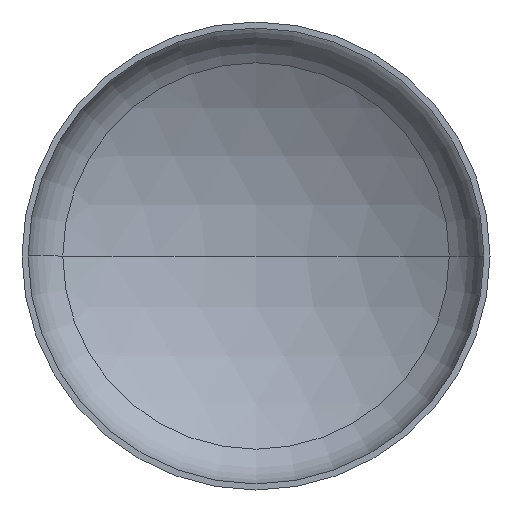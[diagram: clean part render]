
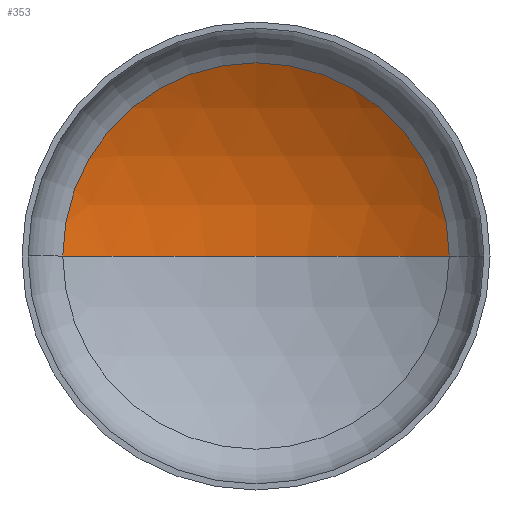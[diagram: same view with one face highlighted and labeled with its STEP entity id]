
A CAD part, front view. The second image highlights one B-rep face of the part: STEP entity #353.
In plain terms, the highlighted spherical face has radius 2400 mm.
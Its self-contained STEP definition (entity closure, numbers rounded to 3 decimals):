
#9 = EDGE_LOOP ( 'NONE', ( #115, #80, #85 ) ) ;
#30 = VERTEX_POINT ( 'NONE', #358 ) ;
#34 = VERTEX_POINT ( 'NONE', #246 ) ;
#50 = AXIS2_PLACEMENT_3D ( 'NONE', #407, #199, #205 ) ;
#57 = AXIS2_PLACEMENT_3D ( 'NONE', #149, #151, #148 ) ;
#63 = AXIS2_PLACEMENT_3D ( 'NONE', #364, #336, #189 ) ;
#70 = DIRECTION ( 'NONE',  ( -1., 0., 0. ) ) ;
#80 = ORIENTED_EDGE ( 'NONE', *, *, #133, .T. ) ;
#83 = DIRECTION ( 'NONE',  ( 0., 0., -1. ) ) ;
#85 = ORIENTED_EDGE ( 'NONE', *, *, #129, .T. ) ;
#89 = VERTEX_POINT ( 'NONE', #273 ) ;
#115 = ORIENTED_EDGE ( 'NONE', *, *, #135, .F. ) ;
#129 = EDGE_CURVE ( 'NONE', #89, #34, #157, .T. ) ;
#133 = EDGE_CURVE ( 'NONE', #30, #89, #400, .T. ) ;
#135 = EDGE_CURVE ( 'NONE', #30, #34, #329, .T. ) ;
#148 = DIRECTION ( 'NONE',  ( -1., 0., 0. ) ) ;
#149 = CARTESIAN_POINT ( 'NONE',  ( 0., -1541.806, 0. ) ) ;
#151 = DIRECTION ( 'NONE',  ( 0., 0., -1. ) ) ;
#157 = CIRCLE ( 'NONE', #63, 1238.351 ) ;
#160 = CARTESIAN_POINT ( 'NONE',  ( 0., -1541.806, 0. ) ) ;
#189 = DIRECTION ( 'NONE',  ( 1., 0., 0. ) ) ;
#199 = DIRECTION ( 'NONE',  ( 0., 0., 1. ) ) ;
#205 = DIRECTION ( 'NONE',  ( 1., 0., 0. ) ) ;
#238 = FACE_OUTER_BOUND ( 'NONE', #9, .T. ) ;
#246 = CARTESIAN_POINT ( 'NONE',  ( -1238.351, 514.036, 0. ) ) ;
#273 = CARTESIAN_POINT ( 'NONE',  ( 1238.351, 514.036, 0. ) ) ;
#329 = CIRCLE ( 'NONE', #50, 2400. ) ;
#336 = DIRECTION ( 'NONE',  ( 0., -1., 0. ) ) ;
#345 = AXIS2_PLACEMENT_3D ( 'NONE', #160, #83, #70 ) ;
#353 = ADVANCED_FACE ( 'NONE', ( #238 ), #408, .F. ) ;
#358 = CARTESIAN_POINT ( 'NONE',  ( 0., 858.194, 0. ) ) ;
#364 = CARTESIAN_POINT ( 'NONE',  ( 0., 514.036, 0. ) ) ;
#400 = CIRCLE ( 'NONE', #57, 2400. ) ;
#407 = CARTESIAN_POINT ( 'NONE',  ( 0., -1541.806, 0. ) ) ;
#408 = SPHERICAL_SURFACE ( 'NONE', #345, 2400. ) ;
